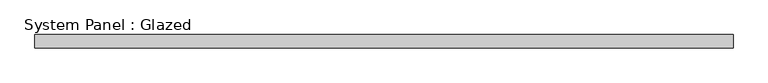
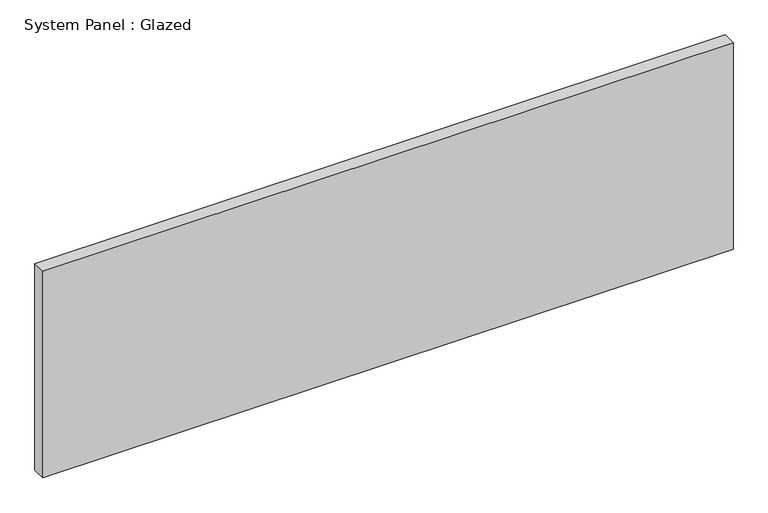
"""IFC4 building model written with IfcOpenShell, lengths in millimetres: plate geometry, System Panel : Glazed."""

import ifcopenshell
import ifcopenshell.guid

model = None  # the IFC model being written
_history = None  # IfcOwnerHistory: only IFC2X3 demands one
_inside = {}  # id of a spatial element -> (the spatial element, [elements in it])
_under = {}  # id of a project, library or spatial element -> (it, [spatial elements below it])
_declared = {}  # id of a project -> (the project, [libraries it declares])
_typed = {}  # id of a type object -> (the type object, [elements of that type])
_made_of = {}  # id of a material, layer set ... -> (it, [elements and type objects made of it])


def new_model(schema):
    """Start an empty IFC model of exactly this schema.

    Asked for "IFC4X3", IfcOpenShell would pick the latest addendum, in which some entities
    have other attributes; the version numbers below select the first issue.
    IFC2X3 requires an IfcOwnerHistory on every rooted entity: one is made here for all.
    """
    global model, _history
    if schema == "IFC4X3":
        model = ifcopenshell.file(schema_version=(4, 3, 0, 0))
    else:
        model = ifcopenshell.file(schema=schema)
    _inside.clear()
    _under.clear()
    _declared.clear()
    _typed.clear()
    _made_of.clear()
    _history = None
    if model.schema == "IFC2X3":
        org = make("IfcOrganization", Name="unknown")
        user = make(
            "IfcPersonAndOrganization",
            ThePerson=make("IfcPerson", FamilyName="unknown"),
            TheOrganization=org,
        )
        app = make(
            "IfcApplication",
            ApplicationDeveloper=org,
            Version="unknown",
            ApplicationFullName="unknown",
            ApplicationIdentifier="unknown",
        )
        _history = make(
            "IfcOwnerHistory",
            OwningUser=user,
            OwningApplication=app,
            ChangeAction="ADDED",
            CreationDate=0,
        )
    return model


def make(cls, **values):
    """One entity of the class cls with the attributes given. An attribute that is None is left unset."""
    return model.create_entity(
        cls, **{name: value for name, value in values.items() if value is not None}
    )


def rooted(cls, **values):
    """An entity with a GlobalId (a new one), such as an element, a storey or a relation."""
    return make(cls, GlobalId=ifcopenshell.guid.new(), OwnerHistory=_history, **values)


def si_unit(unit_type, name, prefix=None):
    """IfcSIUnit, for example si_unit("LENGTHUNIT", "METRE", prefix="MILLI")."""
    return make("IfcSIUnit", UnitType=unit_type, Prefix=prefix, Name=name)


def assignment(units):
    """IfcUnitAssignment: the units of a project."""
    return None if units is None else make("IfcUnitAssignment", Units=units)


def point(xyz):
    """IfcCartesianPoint."""
    return None if xyz is None else make("IfcCartesianPoint", Coordinates=xyz)


def direction(xyz):
    """IfcDirection."""
    return None if xyz is None else make("IfcDirection", DirectionRatios=xyz)


def frame(location, z_axis=None, x_axis=None):
    """IfcAxis2Placement3D, a coordinate frame: its origin and axes. An axis left out is left unset."""
    return make(
        "IfcAxis2Placement3D",
        Location=point(location),
        Axis=direction(z_axis),
        RefDirection=direction(x_axis),
    )


def origin():
    """The frame at (0, 0, 0) with its axes left unset."""
    return frame((0.0, 0.0, 0.0))


def origin_with_axes():
    """The frame at (0, 0, 0) with the z axis (0, 0, 1) and the x axis (1, 0, 0) written out."""
    return frame((0.0, 0.0, 0.0), z_axis=(0.0, 0.0, 1.0), x_axis=(1.0, 0.0, 0.0))


def place(relative_to, where):
    """IfcLocalPlacement: puts the frame where relative to a parent placement (None: the world)."""
    return make(
        "IfcLocalPlacement", PlacementRelTo=relative_to, RelativePlacement=where
    )


def context(
    kind, dimensions, precision=None, world=None, true_north=None, identifier=None
):
    """IfcGeometricRepresentationContext, for example the 3D "Model" context."""
    return make(
        "IfcGeometricRepresentationContext",
        ContextIdentifier=identifier,
        ContextType=kind,
        CoordinateSpaceDimension=dimensions,
        Precision=precision,
        WorldCoordinateSystem=world,
        TrueNorth=true_north,
    )


def project(units=None, contexts=None):
    """IfcProject with its units and contexts."""
    return rooted(
        "IfcProject",
        Name="project",
        RepresentationContexts=contexts,
        UnitsInContext=assignment(units),
    )


def spatial(cls, under=None, at=None, **own):
    """A site, building, storey or space (cls), placed at a placement, below another one or the project."""
    s = rooted(cls, ObjectPlacement=at, **own)
    if under is not None:
        _under.setdefault(under.id(), (under, []))[1].append(s)
    return s


def polyline(points):
    """IfcPolyline through the points."""
    return make("IfcPolyline", Points=[point(p) for p in points])


def outline(outer, holes=None, kind="AREA"):
    """IfcArbitraryClosedProfileDef: a profile drawn as a closed curve; with holes, ...WithVoids."""
    if holes is None:
        return make("IfcArbitraryClosedProfileDef", ProfileType=kind, OuterCurve=outer)
    return make(
        "IfcArbitraryProfileDefWithVoids",
        ProfileType=kind,
        OuterCurve=outer,
        InnerCurves=holes,
    )


def extrude(swept, where, along, depth):
    """IfcExtrudedAreaSolid: the profile swept, set in the frame where, extruded along a direction by depth."""
    return make(
        "IfcExtrudedAreaSolid",
        SweptArea=swept,
        Position=where,
        ExtrudedDirection=direction(along),
        Depth=depth,
    )


def shape(context_of_items, identifier, shape_type, items):
    """IfcShapeRepresentation: the items that make up one representation, for example the "Body"."""
    return make(
        "IfcShapeRepresentation",
        ContextOfItems=context_of_items,
        RepresentationIdentifier=identifier,
        RepresentationType=shape_type,
        Items=items,
    )


def source(mapping_origin, context_of_items, identifier, shape_type, items):
    """IfcRepresentationMap: a shape defined once, which mapped items show again and again."""
    return make(
        "IfcRepresentationMap",
        MappingOrigin=mapping_origin,
        MappedRepresentation=shape(context_of_items, identifier, shape_type, items),
    )


def transform(
    local_origin,
    x_axis=None,
    y_axis=None,
    z_axis=None,
    scale=None,
    scale2=None,
    scale3=None,
    uniform=True,
):
    """IfcCartesianTransformationOperator3D, or its non-uniform kind. x_axis, y_axis, z_axis: its Axis1, 2, 3."""
    if uniform:
        return make(
            "IfcCartesianTransformationOperator3D",
            Axis1=direction(x_axis),
            Axis2=direction(y_axis),
            LocalOrigin=point(local_origin),
            Scale=scale,
            Axis3=direction(z_axis),
        )
    return make(
        "IfcCartesianTransformationOperator3DnonUniform",
        Axis1=direction(x_axis),
        Axis2=direction(y_axis),
        LocalOrigin=point(local_origin),
        Scale=scale,
        Axis3=direction(z_axis),
        Scale2=scale2,
        Scale3=scale3,
    )


def mapped(mapping_source, mapping_target):
    """IfcMappedItem: shows the shape of a source again, moved by a transform."""
    return make(
        "IfcMappedItem", MappingSource=mapping_source, MappingTarget=mapping_target
    )


def made_of(thing, what):
    """Note that an element or type object is made of a material, layer set ...; save() writes the relation."""
    if what is not None:
        _made_of.setdefault(what.id(), (what, []))[1].append(thing)
    return thing


def element(
    cls,
    number,
    at=None,
    inside=None,
    cuts=None,
    type_object=None,
    material=None,
    context=None,
    identifier="Body",
    shape_type=None,
    held_by="IfcProductDefinitionShape",
    body=None,
    shapes=None,
    **own,
):
    """One element of the class cls, such as IfcWall. Its Tag is "e" and its number.

    at: its placement. inside: the storey or other place that contains it. cuts: it is an
    opening in that element (IfcRelVoidsElement). A single representation is given by context,
    identifier, shape_type and body (its items); several are given by shapes. held_by: the class
    of the entity that holds the representations. save() writes the other relations.
    """
    e = rooted(cls, Tag="e%d" % number, ObjectPlacement=at, **own)
    if body is not None:
        shapes = [shape(context, identifier, shape_type, body)]
    if shapes is not None:
        e.Representation = make(held_by, Representations=shapes)
    if inside is not None:
        _inside.setdefault(inside.id(), (inside, []))[1].append(e)
    if cuts is not None:
        rooted(
            "IfcRelVoidsElement", RelatingBuildingElement=cuts, RelatedOpeningElement=e
        )
    if type_object is not None:
        _typed.setdefault(type_object.id(), (type_object, []))[1].append(e)
    return made_of(e, material)


def aggregate(whole, parts):
    """IfcRelAggregates: a whole, such as a stair, and the parts it consists of."""
    return rooted("IfcRelAggregates", RelatingObject=whole, RelatedObjects=parts)


def save(model, path):
    """Write the relations noted so far, then the file.

    IfcRelAggregates (storeys below a building ...), IfcRelContainedInSpatialStructure (elements
    in a storey), IfcRelDefinesByType, IfcRelAssociatesMaterial and IfcRelDeclares: one each for
    every whole, place, type object, material and project.
    """
    for whole, parts in _under.values():
        aggregate(whole, parts)
    for where, things in _inside.values():
        rooted(
            "IfcRelContainedInSpatialStructure",
            RelatedElements=things,
            RelatingStructure=where,
        )
    for kind, things in _typed.values():
        rooted("IfcRelDefinesByType", RelatedObjects=things, RelatingType=kind)
    for what, things in _made_of.values():
        rooted("IfcRelAssociatesMaterial", RelatedObjects=things, RelatingMaterial=what)
    for by, libraries in _declared.values():
        rooted("IfcRelDeclares", RelatingContext=by, RelatedDefinitions=libraries)
    model.write(path)


def system_panel_glazed_29643dd6(model_context):
    return source(origin(), model_context, "Body", "SweptSolid", [
        extrude(outline(polyline([(643.17875, 24.5), (-643.17875, 24.5), (-643.17875, 49.5), (643.17875, 49.5), (643.17875, 24.5)])), origin_with_axes(), (0.0, 0.0, 1.0), 407.2),
    ])


if __name__ == "__main__":
    model = new_model("IFC4")
    model_context = context("Model", 3, world=origin())
    ifc_project = project(units=[si_unit("LENGTHUNIT", "METRE", prefix="MILLI")], contexts=[model_context])
    site = spatial("IfcSite", under=ifc_project)
    building = spatial("IfcBuilding", under=site)
    placement = place(None, origin())
    system_panel_glazed_shape = system_panel_glazed_29643dd6(model_context)
    element("IfcPlate", 1, ObjectType="System Panel : Glazed", at=placement, inside=building, context=model_context, shape_type="MappedRepresentation", body=[
        mapped(system_panel_glazed_shape, transform((0.0, 0.0, 0.0), x_axis=(1.0, 0.0, 0.0), y_axis=(0.0, 1.0, 0.0), z_axis=(0.0, 0.0, 1.0))),
    ])
    save(model, "model.ifc")
